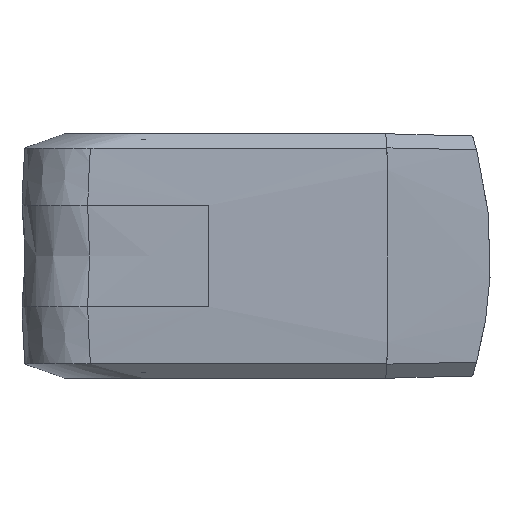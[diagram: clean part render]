
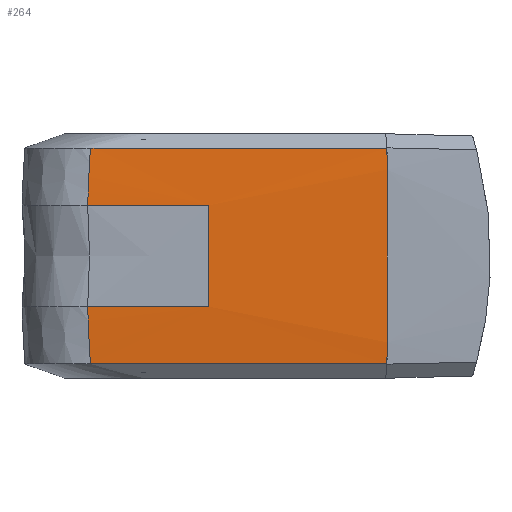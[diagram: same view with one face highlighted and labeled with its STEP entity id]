
A CAD part, left-side view. The second image highlights one B-rep face of the part: STEP entity #264.
In plain terms, the highlighted cylindrical face has radius 84.625 mm (diameter 169.25 mm), a partial arc.
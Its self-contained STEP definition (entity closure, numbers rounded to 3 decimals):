
#222=ELLIPSE('',#1116,117.229,84.625);
#223=ELLIPSE('',#1117,117.229,84.625);
#264=ADVANCED_FACE('',(#348),#327,.T.);
#327=CYLINDRICAL_SURFACE('',#1118,84.625);
#348=FACE_OUTER_BOUND('',#387,.T.);
#387=EDGE_LOOP('',(#503,#504,#505,#506,#507,#508,#509,#510,#511,#512,#513,
#514,#515,#516,#517));
#503=ORIENTED_EDGE('',*,*,#892,.F.);
#504=ORIENTED_EDGE('',*,*,#893,.F.);
#505=ORIENTED_EDGE('',*,*,#894,.F.);
#506=ORIENTED_EDGE('',*,*,#895,.T.);
#507=ORIENTED_EDGE('',*,*,#896,.F.);
#508=ORIENTED_EDGE('',*,*,#897,.F.);
#509=ORIENTED_EDGE('',*,*,#898,.T.);
#510=ORIENTED_EDGE('',*,*,#891,.T.);
#511=ORIENTED_EDGE('',*,*,#899,.T.);
#512=ORIENTED_EDGE('',*,*,#889,.T.);
#513=ORIENTED_EDGE('',*,*,#867,.T.);
#514=ORIENTED_EDGE('',*,*,#900,.T.);
#515=ORIENTED_EDGE('',*,*,#901,.T.);
#516=ORIENTED_EDGE('',*,*,#902,.T.);
#517=ORIENTED_EDGE('',*,*,#903,.T.);
#757=VERTEX_POINT('',#1376);
#758=VERTEX_POINT('',#1381);
#775=VERTEX_POINT('',#1505);
#776=VERTEX_POINT('',#1515);
#777=VERTEX_POINT('',#1516);
#778=VERTEX_POINT('',#1527);
#779=VERTEX_POINT('',#1528);
#780=VERTEX_POINT('',#1534);
#781=VERTEX_POINT('',#1540);
#782=VERTEX_POINT('',#1542);
#783=VERTEX_POINT('',#1547);
#784=VERTEX_POINT('',#1559);
#785=VERTEX_POINT('',#1572);
#786=VERTEX_POINT('',#1577);
#787=VERTEX_POINT('',#1582);
#867=EDGE_CURVE('',#758,#757,#1007,.T.);
#889=EDGE_CURVE('',#775,#758,#1027,.T.);
#891=EDGE_CURVE('',#777,#776,#1029,.T.);
#892=EDGE_CURVE('',#778,#779,#1030,.T.);
#893=EDGE_CURVE('',#780,#778,#1031,.T.);
#894=EDGE_CURVE('',#781,#780,#1032,.T.);
#895=EDGE_CURVE('',#781,#782,#222,.T.);
#896=EDGE_CURVE('',#783,#782,#1033,.T.);
#897=EDGE_CURVE('',#784,#783,#1034,.T.);
#898=EDGE_CURVE('',#784,#777,#1035,.T.);
#899=EDGE_CURVE('',#776,#775,#1036,.T.);
#900=EDGE_CURVE('',#757,#785,#1037,.T.);
#901=EDGE_CURVE('',#785,#786,#1038,.T.);
#902=EDGE_CURVE('',#786,#787,#1039,.T.);
#903=EDGE_CURVE('',#787,#779,#223,.T.);
#1007=B_SPLINE_CURVE_WITH_KNOTS('',3,(#1377,#1378,#1379,#1380),
 .UNSPECIFIED.,.F.,.F.,(4,4),(0.,1.),.UNSPECIFIED.);
#1027=B_SPLINE_CURVE_WITH_KNOTS('',3,(#1506,#1507,#1508,#1509),
 .UNSPECIFIED.,.F.,.F.,(4,4),(0.,1.),.UNSPECIFIED.);
#1029=B_SPLINE_CURVE_WITH_KNOTS('',3,(#1517,#1518,#1519,#1520),
 .UNSPECIFIED.,.F.,.F.,(4,4),(0.,1.),.UNSPECIFIED.);
#1030=B_SPLINE_CURVE_WITH_KNOTS('',3,(#1522,#1523,#1524,#1525,#1526),
 .UNSPECIFIED.,.F.,.F.,(4,1,4),(0.,0.5,1.),.UNSPECIFIED.);
#1031=B_SPLINE_CURVE_WITH_KNOTS('',3,(#1529,#1530,#1531,#1532,#1533),
 .UNSPECIFIED.,.F.,.F.,(4,1,4),(0.,0.5,1.),.UNSPECIFIED.);
#1032=B_SPLINE_CURVE_WITH_KNOTS('',3,(#1535,#1536,#1537,#1538,#1539),
 .UNSPECIFIED.,.F.,.F.,(4,1,4),(0.,0.5,1.),.UNSPECIFIED.);
#1033=B_SPLINE_CURVE_WITH_KNOTS('',3,(#1543,#1544,#1545,#1546),
 .UNSPECIFIED.,.F.,.F.,(4,4),(0.,1.),.UNSPECIFIED.);
#1034=B_SPLINE_CURVE_WITH_KNOTS('',3,(#1548,#1549,#1550,#1551,#1552,#1553,
#1554,#1555,#1556,#1557,#1558),.UNSPECIFIED.,.F.,.F.,(4,1,1,1,1,1,1,1,4),
(0.,0.525,0.787,0.918,0.951,
0.983,0.992,1.,1.),.UNSPECIFIED.);
#1035=B_SPLINE_CURVE_WITH_KNOTS('',3,(#1560,#1561,#1562,#1563),
 .UNSPECIFIED.,.F.,.F.,(4,4),(0.,1.),.UNSPECIFIED.);
#1036=B_SPLINE_CURVE_WITH_KNOTS('',3,(#1564,#1565,#1566,#1567),
 .UNSPECIFIED.,.F.,.F.,(4,4),(0.,1.),.UNSPECIFIED.);
#1037=B_SPLINE_CURVE_WITH_KNOTS('',3,(#1568,#1569,#1570,#1571),
 .UNSPECIFIED.,.F.,.F.,(4,4),(0.,1.),.UNSPECIFIED.);
#1038=B_SPLINE_CURVE_WITH_KNOTS('',3,(#1573,#1574,#1575,#1576),
 .UNSPECIFIED.,.F.,.F.,(4,4),(0.,1.),.UNSPECIFIED.);
#1039=B_SPLINE_CURVE_WITH_KNOTS('',3,(#1578,#1579,#1580,#1581),
 .UNSPECIFIED.,.F.,.F.,(4,4),(0.,1.),.UNSPECIFIED.);
#1116=AXIS2_PLACEMENT_3D('',#1541,#1208,#1209);
#1117=AXIS2_PLACEMENT_3D('',#1583,#1210,#1211);
#1118=AXIS2_PLACEMENT_3D('',#1584,#1212,#1213);
#1208=DIRECTION('',(-0.692,-0.722,0.));
#1209=DIRECTION('',(0.722,-0.692,0.));
#1210=DIRECTION('',(-0.692,-0.722,0.));
#1211=DIRECTION('',(0.722,-0.692,0.));
#1212=DIRECTION('',(0.,-1.,0.));
#1213=DIRECTION('',(0.,0.,-1.));
#1376=CARTESIAN_POINT('',(-43.804,-19.478,12.25));
#1377=CARTESIAN_POINT('',(-43.871,-19.486,11.174));
#1378=CARTESIAN_POINT('',(-43.851,-19.484,11.533));
#1379=CARTESIAN_POINT('',(-43.829,-19.481,11.891));
#1380=CARTESIAN_POINT('',(-43.804,-19.478,12.25));
#1381=CARTESIAN_POINT('',(-43.871,-19.486,11.174));
#1505=CARTESIAN_POINT('',(-43.875,-19.486,11.097));
#1506=CARTESIAN_POINT('',(-43.875,-19.486,11.097));
#1507=CARTESIAN_POINT('',(-43.874,-19.486,11.123));
#1508=CARTESIAN_POINT('',(-43.872,-19.486,11.149));
#1509=CARTESIAN_POINT('',(-43.871,-19.486,11.174));
#1515=CARTESIAN_POINT('',(-43.875,-19.486,1.903));
#1516=CARTESIAN_POINT('',(-43.871,-19.486,1.826));
#1517=CARTESIAN_POINT('',(-43.871,-19.486,1.826));
#1518=CARTESIAN_POINT('',(-43.872,-19.486,1.851));
#1519=CARTESIAN_POINT('',(-43.874,-19.486,1.877));
#1520=CARTESIAN_POINT('',(-43.875,-19.486,1.903));
#1522=CARTESIAN_POINT('',(-43.957,-10.,9.2));
#1523=CARTESIAN_POINT('',(-43.957,-8.924,9.2));
#1524=CARTESIAN_POINT('',(-43.957,-6.771,9.2));
#1525=CARTESIAN_POINT('',(-43.957,-4.618,9.2));
#1526=CARTESIAN_POINT('',(-43.957,-3.541,9.2));
#1527=CARTESIAN_POINT('',(-43.957,-9.999,9.2));
#1528=CARTESIAN_POINT('',(-43.957,-3.541,9.2));
#1529=CARTESIAN_POINT('',(-43.957,-10.,3.8));
#1530=CARTESIAN_POINT('',(-43.986,-10.,4.7));
#1531=CARTESIAN_POINT('',(-44.014,-10.,6.5));
#1532=CARTESIAN_POINT('',(-43.986,-10.,8.3));
#1533=CARTESIAN_POINT('',(-43.957,-10.,9.2));
#1534=CARTESIAN_POINT('',(-43.957,-9.999,3.8));
#1535=CARTESIAN_POINT('',(-43.957,-3.541,3.8));
#1536=CARTESIAN_POINT('',(-43.957,-4.618,3.8));
#1537=CARTESIAN_POINT('',(-43.957,-6.771,3.8));
#1538=CARTESIAN_POINT('',(-43.957,-8.924,3.8));
#1539=CARTESIAN_POINT('',(-43.957,-10.,3.8));
#1540=CARTESIAN_POINT('',(-43.957,-3.541,3.8));
#1541=CARTESIAN_POINT('',(40.625,-84.625,6.5));
#1542=CARTESIAN_POINT('',(-43.804,-3.687,0.75));
#1543=CARTESIAN_POINT('',(-43.804,-3.7,0.75));
#1544=CARTESIAN_POINT('',(-43.804,-3.696,0.75));
#1545=CARTESIAN_POINT('',(-43.804,-3.692,0.75));
#1546=CARTESIAN_POINT('',(-43.804,-3.687,0.75));
#1547=CARTESIAN_POINT('',(-43.804,-3.7,0.75));
#1548=CARTESIAN_POINT('',(-43.804,-19.478,0.75));
#1549=CARTESIAN_POINT('',(-43.804,-16.547,0.75));
#1550=CARTESIAN_POINT('',(-43.804,-12.138,0.75));
#1551=CARTESIAN_POINT('',(-43.805,-7.38,0.75));
#1552=CARTESIAN_POINT('',(-43.805,-5.308,0.75));
#1553=CARTESIAN_POINT('',(-43.804,-4.383,0.75));
#1554=CARTESIAN_POINT('',(-43.804,-4.041,0.75));
#1555=CARTESIAN_POINT('',(-43.804,-3.815,0.75));
#1556=CARTESIAN_POINT('',(-43.805,-3.739,0.75));
#1557=CARTESIAN_POINT('',(-43.804,-3.701,0.75));
#1558=CARTESIAN_POINT('',(-43.804,-3.7,0.75));
#1559=CARTESIAN_POINT('',(-43.804,-19.478,0.75));
#1560=CARTESIAN_POINT('',(-43.804,-19.478,0.75));
#1561=CARTESIAN_POINT('',(-43.829,-19.481,1.109));
#1562=CARTESIAN_POINT('',(-43.851,-19.484,1.467));
#1563=CARTESIAN_POINT('',(-43.871,-19.486,1.826));
#1564=CARTESIAN_POINT('',(-43.875,-19.486,1.903));
#1565=CARTESIAN_POINT('',(-44.042,-19.505,4.965));
#1566=CARTESIAN_POINT('',(-44.042,-19.505,8.035));
#1567=CARTESIAN_POINT('',(-43.875,-19.486,11.097));
#1568=CARTESIAN_POINT('',(-43.804,-19.478,12.25));
#1569=CARTESIAN_POINT('',(-43.804,-14.303,12.25));
#1570=CARTESIAN_POINT('',(-43.804,-9.127,12.25));
#1571=CARTESIAN_POINT('',(-43.804,-3.951,12.25));
#1572=CARTESIAN_POINT('',(-43.804,-3.951,12.25));
#1573=CARTESIAN_POINT('',(-43.804,-3.951,12.25));
#1574=CARTESIAN_POINT('',(-43.804,-3.866,12.25));
#1575=CARTESIAN_POINT('',(-43.804,-3.782,12.25));
#1576=CARTESIAN_POINT('',(-43.804,-3.697,12.25));
#1577=CARTESIAN_POINT('',(-43.804,-3.697,12.25));
#1578=CARTESIAN_POINT('',(-43.804,-3.697,12.25));
#1579=CARTESIAN_POINT('',(-43.804,-3.694,12.25));
#1580=CARTESIAN_POINT('',(-43.804,-3.691,12.25));
#1581=CARTESIAN_POINT('',(-43.804,-3.687,12.25));
#1582=CARTESIAN_POINT('',(-43.804,-3.687,12.25));
#1583=CARTESIAN_POINT('',(40.625,-84.625,6.5));
#1584=CARTESIAN_POINT('',(40.625,0.,6.5));
